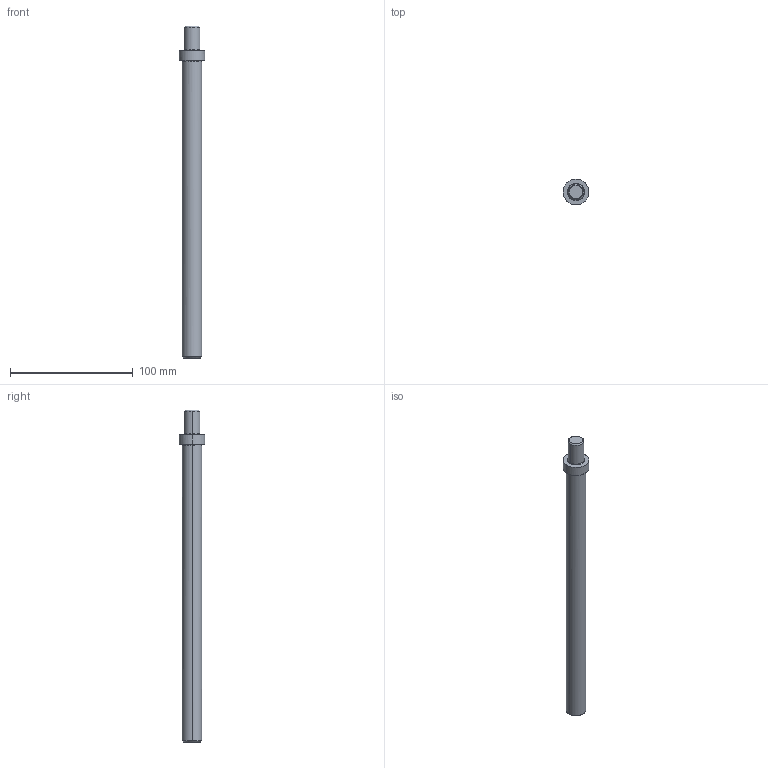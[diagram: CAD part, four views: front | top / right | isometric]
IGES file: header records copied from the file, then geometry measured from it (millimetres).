
Global section: file name: E:\UnigraphicsGraphicData\MISUMI_PRESS-PARTS\IGES\3d_lcp16-250-20_06985_r00.igs; native system: NX V5.0; preprocessor: UGS NX IGES V5.0; author: MISUMI; date: 20110105.161155; units: millimetre
Bounding box: 21 x 21 x 270 mm (x, y, z)
Surface area: 14128.1 mm2 (no closed solid volume)
Topology: 0 solids, 0 shells, 18 faces, 104 edges, 104 vertices
Faces by surface type: bspline 18
